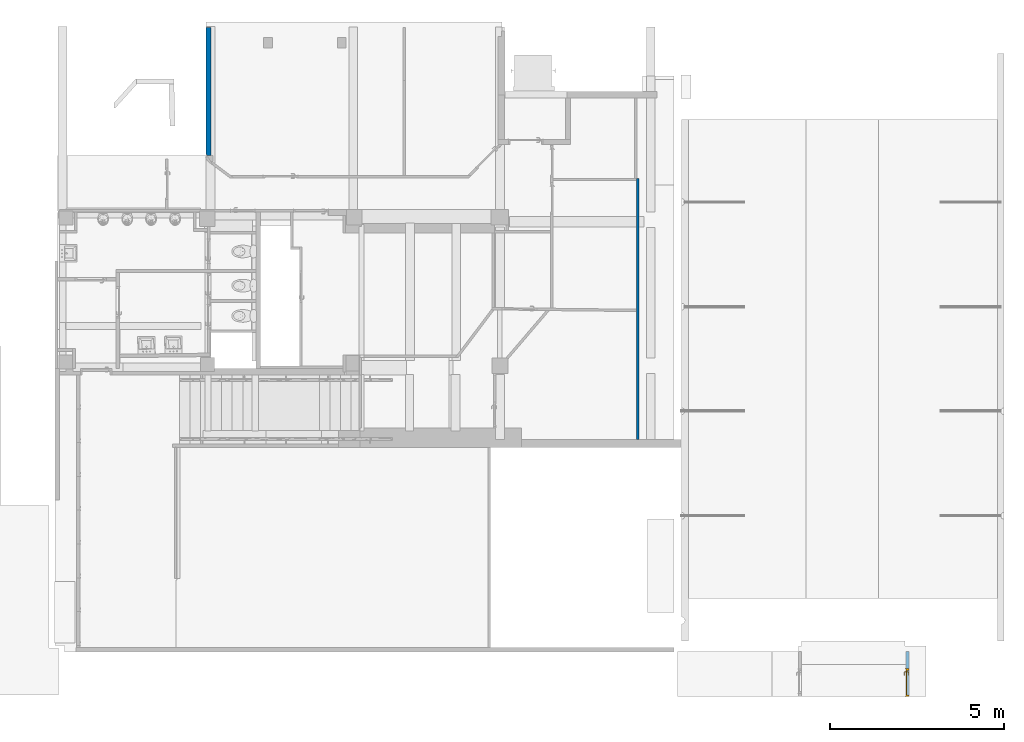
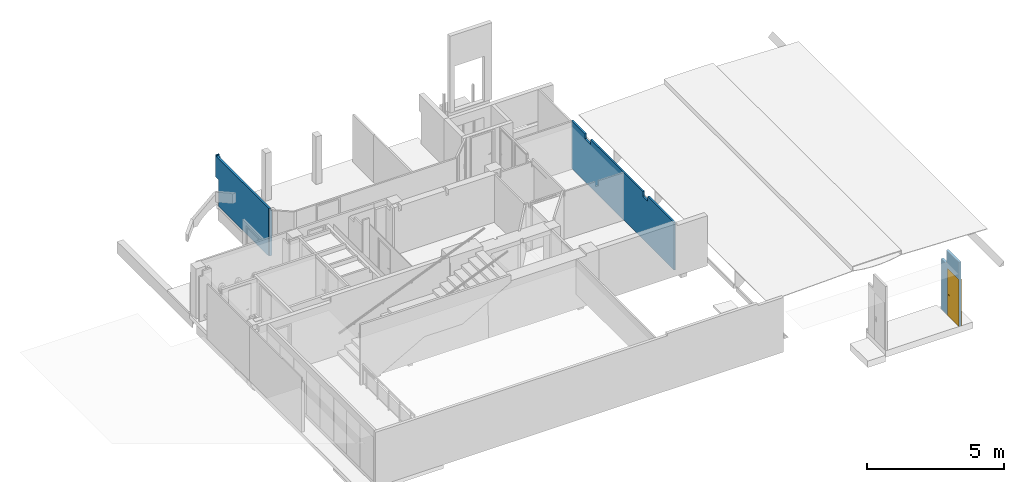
# One storey, part 23 of 32: 2 walls, 1 door, 1 opening, plus 1 element that does not belong to this part.
"""IFC4 building model written with IfcOpenShell, lengths in metres."""

from ifc_helpers import new_model, entity, si_unit, converted_unit, derived_unit, direction, frame, origin, place, context, subcontext, project, spatial, indexed_curve, outline, extrude, polygons, source, transform, mapped, material, material_list, layer, layer_set, constituent, constituent_set, type_object, type_shapes, element, fill, save


model = new_model("IFC4")

# Units and contexts
model_context = context("Model", 3, precision=1e-05, world=origin(), true_north=direction((6.12303176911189e-17, 1.0)))
body_context = subcontext(model_context, "Body", "Model", "MODEL_VIEW")
ifc_project = project(units=[si_unit("LENGTHUNIT", "METRE"), si_unit("AREAUNIT", "SQUARE_METRE"), si_unit("VOLUMEUNIT", "CUBIC_METRE"), converted_unit("PLANEANGLEUNIT", "DEGREE", entity("IfcRatioMeasure", 0.0174532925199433), si_unit("PLANEANGLEUNIT", "RADIAN"), dimensions=[0, 0, 0, 0, 0, 0, 0]), si_unit("MASSUNIT", "GRAM", prefix="KILO"), derived_unit("MASSDENSITYUNIT", [(si_unit("MASSUNIT", "GRAM", prefix="KILO"), 1), (si_unit("LENGTHUNIT", "METRE"), -3)]), derived_unit("MOMENTOFINERTIAUNIT", [(si_unit("LENGTHUNIT", "METRE"), 4)]), si_unit("TIMEUNIT", "SECOND"), si_unit("FREQUENCYUNIT", "HERTZ"), si_unit("THERMODYNAMICTEMPERATUREUNIT", "DEGREE_CELSIUS"), derived_unit("THERMALTRANSMITTANCEUNIT", [(si_unit("MASSUNIT", "GRAM", prefix="KILO"), 1), (si_unit("THERMODYNAMICTEMPERATUREUNIT", "KELVIN"), -1), (si_unit("TIMEUNIT", "SECOND"), -3)]), derived_unit("VOLUMETRICFLOWRATEUNIT", [(si_unit("LENGTHUNIT", "METRE"), 3), (si_unit("TIMEUNIT", "SECOND"), -1)]), si_unit("ELECTRICCURRENTUNIT", "AMPERE"), si_unit("ELECTRICVOLTAGEUNIT", "VOLT"), si_unit("POWERUNIT", "WATT"), si_unit("FORCEUNIT", "NEWTON", prefix="KILO"), si_unit("ILLUMINANCEUNIT", "LUX"), si_unit("LUMINOUSFLUXUNIT", "LUMEN"), si_unit("LUMINOUSINTENSITYUNIT", "CANDELA"), derived_unit("USERDEFINED", [(si_unit("MASSUNIT", "GRAM", prefix="KILO"), -1), (si_unit("LENGTHUNIT", "METRE"), -2), (si_unit("TIMEUNIT", "SECOND"), 3), (si_unit("LUMINOUSFLUXUNIT", "LUMEN"), 1)]), derived_unit("LINEARVELOCITYUNIT", [(si_unit("LENGTHUNIT", "METRE"), 1), (si_unit("TIMEUNIT", "SECOND"), -1)]), si_unit("PRESSUREUNIT", "PASCAL"), derived_unit("USERDEFINED", [(si_unit("LENGTHUNIT", "METRE"), -2), (si_unit("MASSUNIT", "GRAM", prefix="KILO"), 1), (si_unit("TIMEUNIT", "SECOND"), -2)]), derived_unit("LINEARFORCEUNIT", [(si_unit("MASSUNIT", "GRAM", prefix="KILO"), 1), (si_unit("LENGTHUNIT", "METRE"), 1), (si_unit("TIMEUNIT", "SECOND"), -2), (si_unit("LENGTHUNIT", "METRE"), -1)]), derived_unit("PLANARFORCEUNIT", [(si_unit("MASSUNIT", "GRAM", prefix="KILO"), 1), (si_unit("LENGTHUNIT", "METRE"), 1), (si_unit("TIMEUNIT", "SECOND"), -2), (si_unit("LENGTHUNIT", "METRE"), -2)])], contexts=[model_context])

# Site, building, storey
site_placement = place(None, origin())
site = spatial("IfcSite", under=ifc_project, at=site_placement, Name="Default", CompositionType="ELEMENT")
building_placement = place(site_placement, origin())
building = spatial("IfcBuilding", under=site, at=building_placement, Name="HOTEL CONSULAIRE BOULOGNE SUR MER", CompositionType="ELEMENT")
storey_placement = place(building_placement, frame((0.0, 0.0, -2.70343668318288)))
storey = spatial("IfcBuildingStorey", under=building, at=storey_placement, Name="SS1", CompositionType="ELEMENT", Elevation=-2.70343668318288)

# Walls
ifc_material_1 = material(Name="Mur par défaut", Category="Divers")
ifc_layer_1 = layer(ifc_material_1, 0.07, Name="Mur par défaut", Category="Divers")
ifc_layer_set_1 = layer_set([ifc_layer_1], Name="Mur de base:Générique - Int. 70 mm")
wall_type_1 = type_object("IfcWallType", Name="Mur de base:Générique - Int. 70 mm", PredefinedType="NOTDEFINED", material=ifc_layer_set_1)
wall_1_placement = place(storey_placement, frame((11.1172268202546, -21.9392190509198, 0.313990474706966), z_axis=(0.0, 0.0, 1.0), x_axis=(0.0, 1.0, 0.0)))
element("IfcWall", 1, at=wall_1_placement, inside=storey, type_object=wall_type_1, material=ifc_layer_set_1, Name="Mur de base:Générique - Int. 70 mm", ObjectType="Mur de base:Générique - Int. 70 mm", PredefinedType="NOTDEFINED", context=body_context, shape_type="Tessellation", body=[
    polygons([(0.0, 0.0349999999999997, 2.11944620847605), (0.0, -0.0349999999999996, 2.11944620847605), (1.92399449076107, -0.035000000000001, 2.11944620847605), (1.92399449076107, 0.0349999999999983, 2.11944620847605), (6.09886787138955, -0.0350000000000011, 2.11944620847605), (6.09886787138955, 0.0349999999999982, 2.11944620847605), (3.73085530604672, 0.0349999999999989, 2.11944620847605), (3.66085046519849, 0.0349999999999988, 2.11944620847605), (2.27399449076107, 0.0349999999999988, 2.11944620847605), (2.27399449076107, -0.0350000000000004, 2.11944620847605), (7.485007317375, -0.0350000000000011, 2.11944620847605), (6.49886787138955, -0.0350000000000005, 2.11944620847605), (6.49886787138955, -0.0350000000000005, 1.89944620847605), (6.09886787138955, -0.0350000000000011, 1.89944620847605), (2.27399449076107, -0.0350000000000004, 1.89944620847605), (1.92399449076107, -0.035000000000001, 1.89944620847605), (0.0, -0.0349999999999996, 0.0), (7.485007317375, -0.0350000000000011, 0.0), (6.49886787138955, 0.0349999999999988, 2.11944620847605), (7.415007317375, 0.034999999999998, 2.11944620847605), (7.485007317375, 0.0349999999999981, 2.11944620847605), (7.485007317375, 0.0349999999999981, 0.0), (7.415007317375, 0.034999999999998, 0.0), (0.0, 0.0349999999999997, 0.0), (1.92399449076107, 0.0349999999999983, 1.89944620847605), (2.27399449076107, 0.0349999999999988, 1.89944620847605), (6.09886787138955, 0.0349999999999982, 1.89944620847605), (6.49886787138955, 0.0349999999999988, 1.89944620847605), (7.485007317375, 0.0278405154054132, 2.11944620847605), (7.485007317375, 0.0278405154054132, 0.0)], [[[2, 3, 4, 1]], [[10, 5, 6, 7, 8, 9]], [[20, 19, 12, 11, 29, 21]], [[27, 14, 13, 28]], [[26, 25, 16, 15]], [[17, 18, 11, 12, 13, 14, 5, 10, 15, 16, 3, 2]], [[20, 21, 22, 23, 24, 1, 4, 25, 26, 9, 8, 7, 6, 27, 28, 19]], [[11, 18, 30, 22, 21, 29]], [[6, 5, 14, 27]], [[4, 3, 16, 25]], [[24, 17, 2, 1]], [[19, 28, 13, 12]], [[9, 26, 15, 10]], [[24, 23, 22, 30, 18, 17]]], closed=True),
])
ifc_layer_2 = layer(ifc_material_1, 0.13, Name="Mur par défaut", Category="Divers")
ifc_layer_set_2 = layer_set([ifc_layer_2], Name="Mur de base:Int. Plâtre 130 mm")
wall_type_2 = type_object("IfcWallType", Name="Mur de base:Int. Plâtre 130 mm", PredefinedType="NOTDEFINED", material=ifc_layer_set_2)
wall_2_placement = place(storey_placement, frame((-1.19442350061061, -13.9720683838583, 0.313990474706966), z_axis=(0.0, 0.0, 1.0), x_axis=(0.0, 1.0, 0.0)))
element("IfcWall", 2, at=wall_2_placement, inside=storey, type_object=wall_type_2, material=ifc_layer_set_2, Name="Mur de base:Int. Plâtre 130 mm", ObjectType="Mur de base:Int. Plâtre 130 mm", PredefinedType="NOTDEFINED", context=body_context, shape_type="Tessellation", body=[
    polygons([(0.0, -0.0649999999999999, 1.99944620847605), (0.00178039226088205, -0.0649999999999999, 1.99944620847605), (0.00178039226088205, -0.0638874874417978, 1.99944620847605), (0.0, -0.0649999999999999, 0.0), (0.00178039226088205, -0.0649999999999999, 0.0), (0.00178039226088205, -0.063887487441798, 0.0)], [[[3, 1, 2]], [[1, 4, 5, 2]], [[6, 4, 1, 3]], [[6, 5, 4]], [[6, 3, 2, 5]]], closed=True),
    polygons([(0.173735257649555, -0.065, 0.0), (3.83774421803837, -0.065, 0.0), (3.83774421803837, -0.065, 1.18300952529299), (4.05774421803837, -0.065, 1.18300952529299), (4.05774421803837, -0.065, 1.29953183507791), (3.91774421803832, -0.065, 1.31424642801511), (3.91774421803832, -0.065, 1.31950163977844), (3.91774421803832, -0.065, 1.32924642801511), (3.83774421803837, -0.065, 1.32924642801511), (3.44774421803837, -0.0649999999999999, 1.32924642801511), (3.44774421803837, -0.0649999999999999, 1.82924642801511), (3.83774421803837, -0.065, 1.82924642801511), (3.83774421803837, -0.065, 1.87924642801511), (3.88774421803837, -0.0649999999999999, 1.87924642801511), (3.88774421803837, -0.0649999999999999, 1.83924642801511), (3.89743603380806, -0.0649999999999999, 1.83924642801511), (3.93774421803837, -0.0649999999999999, 1.83924642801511), (3.93774421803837, -0.0649999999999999, 1.82944620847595), (3.93774421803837, -0.0649999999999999, 1.82924642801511), (4.05774421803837, -0.065, 1.82924642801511), (4.05774421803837, -0.065, 1.82944620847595), (4.05774421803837, -0.065, 2.16944620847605), (4.00674421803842, -0.0649999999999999, 2.16944620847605), (4.00674421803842, -0.0649999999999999, 2.11944620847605), (3.90999730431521, -0.0649999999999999, 2.11944620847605), (3.90999730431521, -0.0649999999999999, 1.99944620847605), (0.173735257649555, -0.065, 1.99944620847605), (0.173735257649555, 0.043561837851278, 2.11944620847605), (0.208043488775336, 0.0650000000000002, 2.11944620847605), (0.208043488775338, 0.0650000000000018, 0.0), (0.173735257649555, 0.0435618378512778, 0.0), (3.83774421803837, 0.0650000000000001, 0.0), (3.44774421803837, -0.0560000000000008, 1.82924642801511), (3.44774421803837, -0.0560000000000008, 1.32924642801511), (3.83774421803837, -0.0560000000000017, 1.32924642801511), (3.83774421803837, -0.0560000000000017, 1.82924642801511), (3.93774421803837, -0.056000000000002, 1.82924642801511), (4.05774421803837, -0.056000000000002, 1.82924642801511), (1.43043603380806, 0.0650000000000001, 2.11944620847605), (4.00674421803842, 0.0650000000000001, 2.11944620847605), (4.00674421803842, 0.0650000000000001, 2.16944620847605), (4.05774421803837, 0.065, 2.16944620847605), (4.05774421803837, 0.065, 1.18300952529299), (3.88743603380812, 0.065, 1.18300952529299), (3.83774421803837, 0.0650000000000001, 1.18300952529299), (0.173735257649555, -0.0188476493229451, 2.11944620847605), (3.90999730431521, -0.0188476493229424, 2.11944620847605), (3.90999730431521, -0.0234428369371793, 2.11944620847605), (0.173735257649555, -0.0188476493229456, 1.99944620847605), (3.90999730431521, -0.0188476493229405, 1.99944620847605), (3.90999730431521, -0.0234428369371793, 1.99944620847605), (3.91774421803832, -0.0560000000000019, 1.32924642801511), (3.91774421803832, -0.0560000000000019, 1.31424642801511), (4.05774421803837, -0.0560000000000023, 1.29953183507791), (3.93774421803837, -0.056000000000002, 1.32924642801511), (3.93774421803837, -0.0460000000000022, 1.32924642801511), (3.88774421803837, -0.0460000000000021, 1.32924642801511), (3.88774421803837, -0.00600000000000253, 1.32924642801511), (3.83774421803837, -0.00600000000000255, 1.32924642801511), (3.88774421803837, -0.00600000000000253, 1.87924642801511), (3.83774421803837, -0.00600000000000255, 1.87924642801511), (3.88774421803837, -0.0460000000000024, 1.83924642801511), (3.93774421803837, -0.0460000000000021, 1.83924642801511)], [[[27, 1, 2, 3, 4, 5, 6, 7, 8, 9, 10, 11, 12, 13, 14, 15, 16, 17, 18, 19, 20, 21, 22, 23, 24, 25, 26]], [[33, 34, 35, 36]], [[46, 49, 50, 47]], [[55, 52, 53, 54, 38, 37]], [[60, 61, 59, 58]], [[63, 62, 57, 56]], [[30, 31, 28, 29]], [[30, 32, 2, 1, 31]], [[20, 19, 37, 38]], [[4, 3, 45, 44, 43]], [[12, 11, 33, 36]], [[13, 61, 60, 14]], [[16, 15, 62, 63, 17]], [[43, 44, 45, 32, 30, 29, 39, 40, 41, 42]], [[23, 22, 42, 41]], [[39, 29, 28, 46, 47, 48, 25, 24, 40]], [[49, 27, 26, 51, 50]], [[35, 34, 10, 9, 8, 52, 55, 56, 57, 58, 59]], [[46, 28, 31, 1, 27, 49]], [[57, 62, 15, 14, 60, 58]], [[55, 37, 19, 18, 17, 63, 56]], [[41, 40, 24, 23]], [[26, 25, 48, 47, 50, 51]], [[2, 32, 45, 3]], [[10, 34, 33, 11]], [[7, 6, 53, 52, 8]], [[36, 35, 59, 61, 13, 12]], [[22, 21, 20, 38, 54, 5, 4, 43, 42]], [[5, 54, 53, 6]]], closed=True),
])

# Wall, opening, door
ifc_layer_3 = layer(ifc_material_1, 0.09, Name="Mur par défaut", Category="Divers")
ifc_layer_set_3 = layer_set([ifc_layer_3], Name="Mur de base:Générique - Int. 90")
wall_type_3 = type_object("IfcWallType", Name="Mur de base:Générique - Int. 90", PredefinedType="NOTDEFINED", material=ifc_layer_set_3)
wall_3_placement = place(storey_placement, frame((18.848351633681, -29.3180671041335, -0.418774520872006), z_axis=(0.0, 0.0, 1.0), x_axis=(0.0, 1.0, 0.0)))
wall_3 = element("IfcWall", 3, at=wall_3_placement, inside=storey, type_object=wall_type_3, material=ifc_layer_set_3, Name="Mur de base:Générique - Int. 90", ObjectType="Mur de base:Générique - Int. 90", PredefinedType="NOTDEFINED", context=body_context, shape_type="Tessellation", body=[
    polygons([(0.0, -0.0449999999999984, 0.0), (1.29424399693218, -0.0449999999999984, 0.0), (1.29424399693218, -0.0449999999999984, 2.24221120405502), (0.914243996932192, -0.0449999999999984, 2.24221120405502), (0.914243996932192, -0.0449999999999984, 2.85221120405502), (0.0, -0.0449999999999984, 2.85221120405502), (0.00100000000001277, -0.0449999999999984, 0.000267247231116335), (0.00100000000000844, -0.0449999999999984, 2.07526724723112), (0.801000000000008, -0.0449999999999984, 2.07526724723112), (0.801000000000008, -0.0449999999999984, 0.000267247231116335), (1.29424399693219, 0.0450000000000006, 0.0), (0.0, 0.0450000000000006, 0.0), (0.0, 0.0450000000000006, 2.85221120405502), (0.914243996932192, 0.0450000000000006, 2.85221120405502), (0.914243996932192, 0.0450000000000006, 2.24221120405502), (1.29424399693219, 0.0450000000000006, 2.24221120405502), (0.00100000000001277, 0.0450000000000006, 2.07526724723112), (0.00100000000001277, 0.0450000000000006, 0.000267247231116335), (0.801000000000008, 0.0450000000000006, 0.000267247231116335), (0.801000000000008, 0.0450000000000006, 2.07526724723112)], [[[1, 2, 3, 4, 5, 6], [8, 9, 10, 7]], [[11, 12, 13, 14, 15, 16], [20, 17, 18, 19]], [[2, 1, 12, 11]], [[8, 17, 20, 9]], [[6, 5, 14, 13]], [[10, 19, 18, 7]], [[15, 4, 3, 16]], [[2, 11, 16, 3]], [[7, 18, 17, 8]], [[14, 5, 4, 15]], [[12, 1, 6, 13]], [[9, 20, 19, 10]]], closed=True),
])
opening_placement = place(wall_3_placement, frame((0.00100000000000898, -0.045, 0.000267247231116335)))
opening = element("IfcOpeningElement", 4, at=opening_placement, cuts=wall_3, Name="Int. Simple:PP (0.73m x 2.04m):1", ObjectType="Opening", PredefinedType="OPENING", context=body_context, shape_type="SweptSolid", body=[
    extrude(outline(indexed_curve([(0.0, 3.79003495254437e-15), (2.075, 3.79003495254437e-15), (2.075, 0.799999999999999), (0.0, 0.799999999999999), (0.0, 3.79003495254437e-15)], self_intersect=False)), frame((0.0, 0.0, 0.0), z_axis=(0.0, 1.0, 0.0), x_axis=(0.0, 0.0, 1.0)), (0.0, 0.0, 1.0), 0.09),
])
ifc_material_2 = material(Name="Finition Peinture - Blanc satiné", Category="Peinture")
ifc_constituent_1 = constituent(ifc_material_2, Name="Finition Peinture - Blanc satiné", Category="Matériaux")
ifc_material_3 = material(Name="Bois - Panneau de porte", Category="Bois")
ifc_constituent_2 = constituent(ifc_material_3, Name="Bois - Panneau de porte", Category="Matériaux")
ifc_material_4 = material(Name="Bois - Cadre de porte", Category="Bois")
ifc_constituent_3 = constituent(ifc_material_4, Name="Bois - Cadre de porte", Category="Matériaux")
ifc_constituent_set = constituent_set(constituents=[ifc_constituent_1, ifc_constituent_2, ifc_constituent_3], Name="MaterialConstituentSet")
ifc_material_list = material_list([ifc_material_3, ifc_material_4, ifc_material_2, ifc_material_4])
door_type = type_object("IfcDoorType", Name="Int. Simple:PP (0.73m x 2.04m)", OperationType="NOTDEFINED", PredefinedType="DOOR", material=ifc_material_list)
shared_shape = source(origin(), body_context, "Body", "Tessellation", [
    polygons([(0.0750000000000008, -0.00500000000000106, 0.870000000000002), (0.0846472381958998, -0.00500000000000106, 0.866003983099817), (0.0950000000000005, -0.00500000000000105, 0.86464101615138), (0.105352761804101, -0.00500000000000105, 0.866003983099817), (0.115, -0.00500000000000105, 0.870000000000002), (0.114999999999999, -0.00500000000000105, 1.08), (0.1053527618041, -0.00500000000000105, 1.08399601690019), (0.0949999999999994, -0.00500000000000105, 1.08535898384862), (0.0846472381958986, -0.00500000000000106, 1.08399601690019), (0.0749999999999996, -0.00500000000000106, 1.08), (0.0749999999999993, -1.06594733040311e-15, 0.870000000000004), (0.0749999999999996, -1.06594733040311e-15, 1.08), (0.0846472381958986, -1.06594733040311e-15, 1.08399601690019), (0.0949999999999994, -1.05748743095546e-15, 1.08535898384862), (0.1053527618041, -1.05748743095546e-15, 1.08399601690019), (0.114999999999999, -1.04902753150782e-15, 1.08), (0.115, -1.04902753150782e-15, 0.870000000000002), (0.105352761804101, -1.05748743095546e-15, 0.866003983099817), (0.0950000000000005, -1.05748743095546e-15, 0.86464101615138), (0.0846472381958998, -1.06594733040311e-15, 0.866003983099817)], [[[4, 5, 6, 7, 8, 9, 10, 1, 2, 3]], [[15, 16, 17, 18, 19, 20, 11, 12, 13, 14]], [[11, 20, 2, 1]], [[2, 20, 19, 3]], [[19, 18, 4, 3]], [[18, 17, 5, 4]], [[6, 5, 17, 16]], [[16, 15, 7, 6]], [[7, 15, 14, 8]], [[14, 13, 9, 8]], [[13, 12, 10, 9]], [[1, 10, 12, 11]]], closed=True),
    polygons([(0.114999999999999, 0.0399999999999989, 1.08), (0.1053527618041, 0.0399999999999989, 1.08399601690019), (0.094999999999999, 0.0399999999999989, 1.08535898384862), (0.0846472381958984, 0.0399999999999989, 1.08399601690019), (0.0749999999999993, 0.0399999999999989, 1.08), (0.0750000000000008, 0.0399999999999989, 0.870000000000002), (0.0846472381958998, 0.0399999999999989, 0.866003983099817), (0.0950000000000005, 0.0399999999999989, 0.86464101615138), (0.105352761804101, 0.0399999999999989, 0.866003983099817), (0.115, 0.0399999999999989, 0.870000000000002), (0.114999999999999, 0.0449999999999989, 1.08), (0.115, 0.0449999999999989, 0.870000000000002), (0.105352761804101, 0.0449999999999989, 0.866003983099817), (0.0950000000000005, 0.0449999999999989, 0.86464101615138), (0.0846472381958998, 0.0449999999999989, 0.866003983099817), (0.0749999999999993, 0.0449999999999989, 0.870000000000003), (0.0749999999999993, 0.0449999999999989, 1.08), (0.0846472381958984, 0.0449999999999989, 1.08399601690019), (0.094999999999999, 0.0449999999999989, 1.08535898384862), (0.1053527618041, 0.0449999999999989, 1.08399601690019)], [[[9, 10, 1, 2, 3, 4, 5, 6, 7, 8]], [[20, 11, 12, 13, 14, 15, 16, 17, 18, 19]], [[11, 20, 2, 1]], [[2, 20, 19, 3]], [[19, 18, 4, 3]], [[18, 17, 5, 4]], [[6, 5, 17, 16]], [[16, 15, 7, 6]], [[7, 15, 14, 8]], [[14, 13, 9, 8]], [[13, 12, 10, 9]], [[1, 10, 12, 11]]], closed=True),
    polygons([(0.0889999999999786, -0.00500000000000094, 1.007), (0.0929747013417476, -0.00500000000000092, 1.00778044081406), (0.0970252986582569, -0.0050000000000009, 1.00778044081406), (0.101000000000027, -0.00500000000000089, 1.00699999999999), (0.101000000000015, -0.00500000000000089, 0.993000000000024), (0.0970252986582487, -0.0050000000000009, 0.992219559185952), (0.0929747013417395, -0.00500000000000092, 0.99221955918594), (0.0889999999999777, -0.00500000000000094, 0.992999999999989), (0.0889999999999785, -0.0326509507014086, 1.007), (0.0929747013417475, -0.0310045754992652, 1.00778044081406), (0.0970252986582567, -0.0293267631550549, 1.00778044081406), (0.101000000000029, -0.0276803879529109, 1.007), (0.101000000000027, -0.0276803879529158, 0.993000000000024), (0.0970252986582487, -0.0293267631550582, 0.992219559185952), (0.0929747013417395, -0.0310045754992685, 0.99221955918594), (0.0889999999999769, -0.0326509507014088, 0.992999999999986), (0.107377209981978, -0.0510281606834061, 1.007), (0.109023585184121, -0.0470534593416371, 1.00778044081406), (0.110701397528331, -0.0430028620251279, 1.00778044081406), (0.112347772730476, -0.0390281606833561, 1.007), (0.112347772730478, -0.0390281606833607, 0.993000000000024), (0.110701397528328, -0.0430028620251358, 0.992219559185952), (0.109023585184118, -0.047053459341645, 0.99221955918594), (0.107377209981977, -0.0510281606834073, 0.992999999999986), (0.195018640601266, -0.0510281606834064, 1.00699999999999), (0.195018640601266, -0.0510281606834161, 0.992999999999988), (0.195018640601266, -0.0470534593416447, 0.99221955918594), (0.195018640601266, -0.0430028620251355, 0.992219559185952), (0.195018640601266, -0.039028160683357, 0.993000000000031), (0.195018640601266, -0.0390281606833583, 1.007), (0.195018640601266, -0.0430028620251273, 1.00778044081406), (0.195018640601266, -0.0470534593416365, 1.00778044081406), (0.147307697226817, -0.0510281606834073, 1.007), (0.152860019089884, -0.045028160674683, 1.0078786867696), (0.15368320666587, -0.039028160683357, 1.007), (0.147307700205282, -0.0510281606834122, 0.992999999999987), (0.152860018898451, -0.0450281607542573, 0.992121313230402), (0.153683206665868, -0.039028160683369, 0.993000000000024)], [[[2, 3, 4, 5, 6, 7, 8, 1]], [[21, 20, 35, 30, 29, 38]], [[9, 10, 2, 1]], [[10, 18, 19, 11, 3, 2]], [[11, 12, 4, 3]], [[5, 4, 12, 13]], [[26, 27, 28, 29, 30, 31, 32, 25]], [[13, 14, 6, 5]], [[14, 22, 23, 15, 7, 6]], [[15, 16, 8, 7]], [[1, 8, 16, 9]], [[17, 18, 10, 9]], [[19, 20, 12, 11]], [[13, 12, 20, 21]], [[21, 22, 14, 13]], [[23, 24, 16, 15]], [[9, 16, 24, 17]], [[33, 32, 34]], [[25, 32, 33]], [[18, 17, 33]], [[34, 35, 19]], [[20, 19, 35]], [[35, 31, 30]], [[32, 31, 34]], [[31, 35, 34]], [[18, 33, 34]], [[18, 34, 19]], [[38, 28, 37]], [[36, 37, 27]], [[21, 38, 22]], [[38, 29, 28]], [[26, 36, 27]], [[24, 23, 36]], [[36, 23, 37]], [[23, 22, 37]], [[22, 38, 37]], [[27, 37, 28]], [[17, 24, 36, 26, 25, 33]]], closed=True),
    polygons([(0.10100000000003, 0.0449999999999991, 0.993000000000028), (0.101000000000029, 0.0449999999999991, 1.007), (0.0970252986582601, 0.0449999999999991, 1.00778044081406), (0.0929747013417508, 0.0449999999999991, 1.00778044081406), (0.0889999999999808, 0.044999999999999, 1.007), (0.0889999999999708, 0.044999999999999, 0.992999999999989), (0.0929747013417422, 0.0449999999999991, 0.99221955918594), (0.0970252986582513, 0.0449999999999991, 0.992219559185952), (0.10100000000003, 0.067485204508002, 0.993000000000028), (0.10100000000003, 0.0674852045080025, 1.007), (0.0970252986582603, 0.0691315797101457, 1.00778044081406), (0.092974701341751, 0.070809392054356, 1.00778044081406), (0.0889999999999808, 0.0724557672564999, 1.007), (0.0889999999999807, 0.072455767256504, 0.992999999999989), (0.0929747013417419, 0.0708093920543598, 0.99221955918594), (0.0970252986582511, 0.0691315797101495, 0.992219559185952), (0.112485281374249, 0.0789704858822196, 0.993000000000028), (0.112485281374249, 0.0789704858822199, 1.007), (0.110838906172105, 0.0829451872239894, 1.00778044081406), (0.109161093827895, 0.0869957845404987, 1.00778044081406), (0.107514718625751, 0.0909704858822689, 1.007), (0.107514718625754, 0.090970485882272, 0.992999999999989), (0.109161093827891, 0.0869957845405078, 0.99221955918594), (0.110838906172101, 0.0829451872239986, 0.992219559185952), (0.195045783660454, 0.0789704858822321, 0.993000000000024), (0.195045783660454, 0.0829451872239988, 0.992219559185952), (0.195045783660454, 0.086995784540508, 0.99221955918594), (0.195045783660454, 0.0909704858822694, 0.992999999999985), (0.195045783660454, 0.0909704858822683, 1.007), (0.195045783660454, 0.0869957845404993, 1.00778044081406), (0.195045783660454, 0.0829451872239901, 1.00778044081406), (0.195045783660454, 0.0789704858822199, 1.007), (0.147445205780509, 0.0909704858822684, 1.007), (0.152942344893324, 0.0849704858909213, 1.0078786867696), (0.153765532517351, 0.0789704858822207, 1.007), (0.147445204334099, 0.0909704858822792, 0.992999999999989), (0.152942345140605, 0.0849704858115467, 0.992121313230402), (0.153765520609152, 0.0789704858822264, 0.993000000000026)], [[[4, 5, 6, 7, 8, 1, 2, 3]], [[18, 17, 38, 25, 32, 35]], [[2, 1, 9, 10]], [[25, 26, 27, 28, 29, 30, 31, 32]], [[10, 11, 3, 2]], [[11, 19, 20, 12, 4, 3]], [[12, 13, 5, 4]], [[6, 5, 13, 14]], [[14, 15, 7, 6]], [[15, 23, 24, 16, 8, 7]], [[16, 9, 1, 8]], [[10, 9, 17, 18]], [[18, 19, 11, 10]], [[20, 21, 13, 12]], [[14, 13, 21, 22]], [[22, 23, 15, 14]], [[24, 17, 9, 16]], [[35, 31, 34]], [[33, 34, 30]], [[18, 35, 19]], [[35, 32, 31]], [[29, 33, 30]], [[21, 20, 33]], [[33, 20, 34]], [[20, 19, 34]], [[19, 35, 34]], [[30, 34, 31]], [[21, 33, 29, 28, 36, 22]], [[36, 27, 37]], [[28, 27, 36]], [[23, 22, 36]], [[37, 38, 24]], [[17, 24, 38]], [[38, 26, 25]], [[27, 26, 37]], [[26, 38, 37]], [[23, 36, 37]], [[23, 37, 24]]], closed=True),
    polygons([(0.0349999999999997, 0.04, 2.04), (0.765, 0.04, 2.04), (0.765, 0.04, 0.0), (0.0349999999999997, 0.04, 0.0), (0.0349999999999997, 3.38395977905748e-17, 2.04), (0.0349999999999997, 3.38395977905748e-17, 0.0), (0.765, 3.38395977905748e-17, 0.0), (0.765, 3.38395977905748e-17, 2.04)], [[[4, 1, 2, 3]], [[7, 8, 5, 6]], [[2, 1, 5, 8]], [[3, 2, 8, 7]], [[4, 3, 7, 6]], [[1, 4, 6, 5]]], closed=True),
    polygons([(-1.54308565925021e-14, 8.45989944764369e-18, 0.0), (-1.54308565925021e-14, 0.090000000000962, 0.0), (0.0499999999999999, 0.090000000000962, 0.0), (0.0499999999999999, 0.0400000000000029, 0.0), (0.0349999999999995, 0.0400000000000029, 0.0), (0.0349999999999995, 8.45989944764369e-18, 0.0), (-1.52278190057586e-14, 8.45989944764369e-18, 2.07500000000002), (-1.52278190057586e-14, 0.090000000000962, 2.07500000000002), (0.800000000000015, 0.090000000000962, 2.07500000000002), (0.800000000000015, 0.090000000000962, 1.11785144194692e-24), (0.75, 0.090000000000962, 4.32560750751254e-24), (0.75, 0.090000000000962, 2.025), (0.05, 0.090000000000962, 2.025), (0.05, 0.0400000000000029, 2.025), (0.75, 0.0400000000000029, 2.025), (0.75, 0.0400000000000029, 4.38261121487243e-24), (0.765, 0.0400000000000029, -1.05581090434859e-24), (0.765, 0.0400000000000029, 2.04), (0.0349999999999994, 0.0400000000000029, 2.04), (0.0349999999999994, 8.45989944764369e-18, 2.04), (0.765, 8.45989944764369e-18, 2.04), (0.765, 8.45989944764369e-18, -1.58195857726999e-24), (0.800000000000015, 8.45989944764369e-18, -4.03399389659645e-24), (0.800000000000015, 8.45989944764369e-18, 2.07500000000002)], [[[5, 6, 1, 2, 3, 4]], [[11, 10, 23, 22, 17, 16]], [[14, 13, 12, 15]], [[20, 19, 18, 21]], [[2, 1, 7, 8]], [[15, 12, 11, 16]], [[21, 18, 17, 22]], [[3, 2, 8, 9, 10, 11, 12, 13]], [[4, 3, 13, 14]], [[6, 5, 19, 20]], [[9, 24, 23, 10]], [[16, 17, 18, 19, 5, 4, 14, 15]], [[22, 23, 24, 7, 1, 6, 20, 21]], [[8, 7, 24, 9]]], closed=True),
    polygons([(0.0149999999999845, 0.090000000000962, 0.0), (-0.0150000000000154, 0.090000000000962, 0.0), (-0.0150000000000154, 0.095000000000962, 0.0), (0.0149999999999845, 0.095000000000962, 0.0), (0.0149999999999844, 0.090000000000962, 2.06000000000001), (0.784999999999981, 0.090000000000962, 2.06000000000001), (0.78499999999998, 0.090000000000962, -1.2141145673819e-24), (0.81499999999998, 0.090000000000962, 1.25328008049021e-24), (0.81499999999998, 0.090000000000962, 2.09000000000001), (-0.0150000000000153, 0.090000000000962, 2.09000000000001), (-0.0150000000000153, 0.095000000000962, 2.09000000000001), (0.814999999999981, 0.095000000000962, 2.09000000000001), (0.814999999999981, 0.095000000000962, -5.79042005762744e-25), (0.784999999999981, 0.095000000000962, 4.59373551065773e-24), (0.784999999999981, 0.095000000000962, 2.06000000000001), (0.0149999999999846, 0.095000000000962, 2.06000000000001)], [[[1, 2, 3, 4]], [[14, 13, 8, 7]], [[5, 16, 15, 6]], [[7, 8, 9, 10, 2, 1, 5, 6]], [[3, 2, 10, 11]], [[6, 15, 14, 7]], [[4, 3, 11, 12, 13, 14, 15, 16]], [[1, 4, 16, 5]], [[12, 9, 8, 13]], [[11, 10, 9, 12]]], closed=True),
    polygons([(0.0149999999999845, -0.00500000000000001, 0.0), (-0.0150000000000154, -0.00500000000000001, 0.0), (-0.0150000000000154, 8.45989944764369e-18, 0.0), (0.0149999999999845, 8.45989944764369e-18, 0.0), (0.784999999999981, -0.00500000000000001, 5.41433564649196e-16), (0.784999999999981, 8.45989944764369e-18, 5.41433564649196e-16), (0.81499999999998, 8.45989944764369e-18, 5.41433564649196e-16), (0.81499999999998, -0.00500000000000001, 5.41433564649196e-16), (0.0149999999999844, -0.00500000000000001, 2.06000000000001), (0.784999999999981, -0.00500000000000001, 2.06000000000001), (0.81499999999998, -0.00500000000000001, 2.09000000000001), (-0.0150000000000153, -0.00500000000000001, 2.09000000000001), (-0.0150000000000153, 8.45989944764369e-18, 2.09000000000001), (0.814999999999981, 8.45989944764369e-18, 2.09000000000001), (0.784999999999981, 8.45989944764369e-18, 2.06000000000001), (0.0149999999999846, 8.45989944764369e-18, 2.06000000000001)], [[[1, 2, 3, 4]], [[6, 7, 8, 5]], [[9, 16, 15, 10]], [[5, 8, 11, 12, 2, 1, 9, 10]], [[3, 2, 12, 13]], [[10, 15, 6, 5]], [[4, 3, 13, 14, 7, 6, 15, 16]], [[1, 4, 16, 9]], [[14, 11, 8, 7]], [[13, 12, 11, 14]]], closed=True),
])
type_shapes(door_type, [shared_shape])
door_placement = place(opening_placement, frame((0.800000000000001, 0.0900000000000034, 0.0), z_axis=(0.0, 0.0, 1.0), x_axis=(-1.0, 0.0, 0.0)))
door = element("IfcDoor", 5, at=door_placement, inside=storey, type_object=door_type, material=ifc_constituent_set, Name="Int. Simple:PP (0.73m x 2.04m)", ObjectType="Int. Simple:PP (0.73m x 2.04m)", OperationType="NOTDEFINED", OverallHeight=2.075, OverallWidth=0.8, PredefinedType="DOOR", context=body_context, shape_type="MappedRepresentation", body=[
    mapped(shared_shape, transform((0.0, 0.0, 0.0), scale=1.0)),
])
fill(opening, door)

save(model, "model.ifc")
